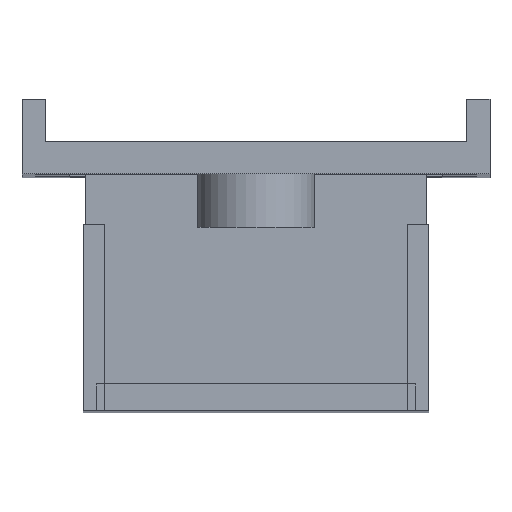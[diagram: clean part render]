
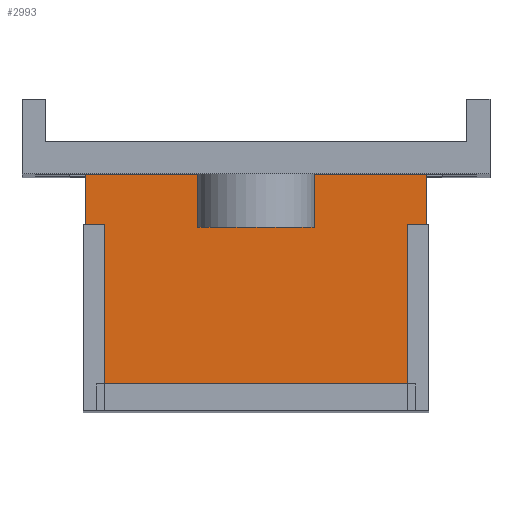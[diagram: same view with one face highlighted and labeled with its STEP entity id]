
A CAD part, top view. The second image highlights one B-rep face of the part: STEP entity #2993.
In plain terms, the highlighted planar face has unit normal (0, 0, 1).
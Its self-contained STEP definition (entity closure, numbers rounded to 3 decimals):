
#2679 = VERTEX_POINT('',#2680);
#2680 = CARTESIAN_POINT('',(0.,-10.9,84.2));
#2687 = PLANE('',#2688);
#2688 = AXIS2_PLACEMENT_3D('',#2689,#2690,#2691);
#2689 = CARTESIAN_POINT('',(0.,-10.9,83.));
#2690 = DIRECTION('',(1.,0.,0.));
#2691 = DIRECTION('',(0.,0.,1.));
#2699 = PLANE('',#2700);
#2700 = AXIS2_PLACEMENT_3D('',#2701,#2702,#2703);
#2701 = CARTESIAN_POINT('',(0.,-10.9,83.));
#2702 = DIRECTION('',(0.,1.,0.));
#2703 = DIRECTION('',(0.,0.,1.));
#2740 = VERTEX_POINT('',#2741);
#2741 = CARTESIAN_POINT('',(0.,-0.9,84.2));
#2755 = PLANE('',#2756);
#2756 = AXIS2_PLACEMENT_3D('',#2757,#2758,#2759);
#2757 = CARTESIAN_POINT('',(0.,-0.9,83.));
#2758 = DIRECTION('',(0.,1.,0.));
#2759 = DIRECTION('',(0.,0.,1.));
#2767 = EDGE_CURVE('',#2679,#2740,#2768,.T.);
#2768 = SURFACE_CURVE('',#2769,(#2773,#2780),.PCURVE_S1.);
#2769 = LINE('',#2770,#2771);
#2770 = CARTESIAN_POINT('',(0.,-10.9,84.2));
#2771 = VECTOR('',#2772,1.);
#2772 = DIRECTION('',(0.,1.,0.));
#2773 = PCURVE('',#2687,#2774);
#2774 = DEFINITIONAL_REPRESENTATION('',(#2775),#2779);
#2775 = LINE('',#2776,#2777);
#2776 = CARTESIAN_POINT('',(1.2,0.));
#2777 = VECTOR('',#2778,1.);
#2778 = DIRECTION('',(0.,-1.));
#2779 = ( GEOMETRIC_REPRESENTATION_CONTEXT(2) 
PARAMETRIC_REPRESENTATION_CONTEXT() REPRESENTATION_CONTEXT('2D SPACE',''
  ) );
#2780 = PCURVE('',#2781,#2786);
#2781 = PLANE('',#2782);
#2782 = AXIS2_PLACEMENT_3D('',#2783,#2784,#2785);
#2783 = CARTESIAN_POINT('',(0.,-10.9,84.2));
#2784 = DIRECTION('',(0.,0.,1.));
#2785 = DIRECTION('',(1.,0.,0.));
#2786 = DEFINITIONAL_REPRESENTATION('',(#2787),#2791);
#2787 = LINE('',#2788,#2789);
#2788 = CARTESIAN_POINT('',(0.,0.));
#2789 = VECTOR('',#2790,1.);
#2790 = DIRECTION('',(0.,1.));
#2791 = ( GEOMETRIC_REPRESENTATION_CONTEXT(2) 
PARAMETRIC_REPRESENTATION_CONTEXT() REPRESENTATION_CONTEXT('2D SPACE',''
  ) );
#2799 = VERTEX_POINT('',#2800);
#2800 = CARTESIAN_POINT('',(12.8,-10.9,84.2));
#2807 = PLANE('',#2808);
#2808 = AXIS2_PLACEMENT_3D('',#2809,#2810,#2811);
#2809 = CARTESIAN_POINT('',(12.8,-10.9,83.));
#2810 = DIRECTION('',(1.,0.,0.));
#2811 = DIRECTION('',(0.,0.,1.));
#2850 = VERTEX_POINT('',#2851);
#2851 = CARTESIAN_POINT('',(12.8,-0.9,84.2));
#2872 = EDGE_CURVE('',#2799,#2850,#2873,.T.);
#2873 = SURFACE_CURVE('',#2874,(#2878,#2885),.PCURVE_S1.);
#2874 = LINE('',#2875,#2876);
#2875 = CARTESIAN_POINT('',(12.8,-10.9,84.2));
#2876 = VECTOR('',#2877,1.);
#2877 = DIRECTION('',(0.,1.,0.));
#2878 = PCURVE('',#2807,#2879);
#2879 = DEFINITIONAL_REPRESENTATION('',(#2880),#2884);
#2880 = LINE('',#2881,#2882);
#2881 = CARTESIAN_POINT('',(1.2,0.));
#2882 = VECTOR('',#2883,1.);
#2883 = DIRECTION('',(0.,-1.));
#2884 = ( GEOMETRIC_REPRESENTATION_CONTEXT(2) 
PARAMETRIC_REPRESENTATION_CONTEXT() REPRESENTATION_CONTEXT('2D SPACE',''
  ) );
#2885 = PCURVE('',#2781,#2886);
#2886 = DEFINITIONAL_REPRESENTATION('',(#2887),#2891);
#2887 = LINE('',#2888,#2889);
#2888 = CARTESIAN_POINT('',(12.8,0.));
#2889 = VECTOR('',#2890,1.);
#2890 = DIRECTION('',(0.,1.));
#2891 = ( GEOMETRIC_REPRESENTATION_CONTEXT(2) 
PARAMETRIC_REPRESENTATION_CONTEXT() REPRESENTATION_CONTEXT('2D SPACE',''
  ) );
#2918 = EDGE_CURVE('',#2679,#2799,#2919,.T.);
#2919 = SURFACE_CURVE('',#2920,(#2924,#2931),.PCURVE_S1.);
#2920 = LINE('',#2921,#2922);
#2921 = CARTESIAN_POINT('',(0.,-10.9,84.2));
#2922 = VECTOR('',#2923,1.);
#2923 = DIRECTION('',(1.,0.,0.));
#2924 = PCURVE('',#2699,#2925);
#2925 = DEFINITIONAL_REPRESENTATION('',(#2926),#2930);
#2926 = LINE('',#2927,#2928);
#2927 = CARTESIAN_POINT('',(1.2,0.));
#2928 = VECTOR('',#2929,1.);
#2929 = DIRECTION('',(0.,1.));
#2930 = ( GEOMETRIC_REPRESENTATION_CONTEXT(2) 
PARAMETRIC_REPRESENTATION_CONTEXT() REPRESENTATION_CONTEXT('2D SPACE',''
  ) );
#2931 = PCURVE('',#2781,#2932);
#2932 = DEFINITIONAL_REPRESENTATION('',(#2933),#2937);
#2933 = LINE('',#2934,#2935);
#2934 = CARTESIAN_POINT('',(0.,0.));
#2935 = VECTOR('',#2936,1.);
#2936 = DIRECTION('',(1.,0.));
#2937 = ( GEOMETRIC_REPRESENTATION_CONTEXT(2) 
PARAMETRIC_REPRESENTATION_CONTEXT() REPRESENTATION_CONTEXT('2D SPACE',''
  ) );
#2965 = EDGE_CURVE('',#2740,#2850,#2966,.T.);
#2966 = SURFACE_CURVE('',#2967,(#2971,#2978),.PCURVE_S1.);
#2967 = LINE('',#2968,#2969);
#2968 = CARTESIAN_POINT('',(0.,-0.9,84.2));
#2969 = VECTOR('',#2970,1.);
#2970 = DIRECTION('',(1.,0.,0.));
#2971 = PCURVE('',#2755,#2972);
#2972 = DEFINITIONAL_REPRESENTATION('',(#2973),#2977);
#2973 = LINE('',#2974,#2975);
#2974 = CARTESIAN_POINT('',(1.2,0.));
#2975 = VECTOR('',#2976,1.);
#2976 = DIRECTION('',(0.,1.));
#2977 = ( GEOMETRIC_REPRESENTATION_CONTEXT(2) 
PARAMETRIC_REPRESENTATION_CONTEXT() REPRESENTATION_CONTEXT('2D SPACE',''
  ) );
#2978 = PCURVE('',#2781,#2979);
#2979 = DEFINITIONAL_REPRESENTATION('',(#2980),#2984);
#2980 = LINE('',#2981,#2982);
#2981 = CARTESIAN_POINT('',(0.,10.));
#2982 = VECTOR('',#2983,1.);
#2983 = DIRECTION('',(1.,0.));
#2984 = ( GEOMETRIC_REPRESENTATION_CONTEXT(2) 
PARAMETRIC_REPRESENTATION_CONTEXT() REPRESENTATION_CONTEXT('2D SPACE',''
  ) );
#2993 = ADVANCED_FACE('',(#2994),#2781,.T.);
#2994 = FACE_BOUND('',#2995,.T.);
#2995 = EDGE_LOOP('',(#2996,#2997,#2998,#2999));
#2996 = ORIENTED_EDGE('',*,*,#2767,.F.);
#2997 = ORIENTED_EDGE('',*,*,#2918,.T.);
#2998 = ORIENTED_EDGE('',*,*,#2872,.T.);
#2999 = ORIENTED_EDGE('',*,*,#2965,.F.);
